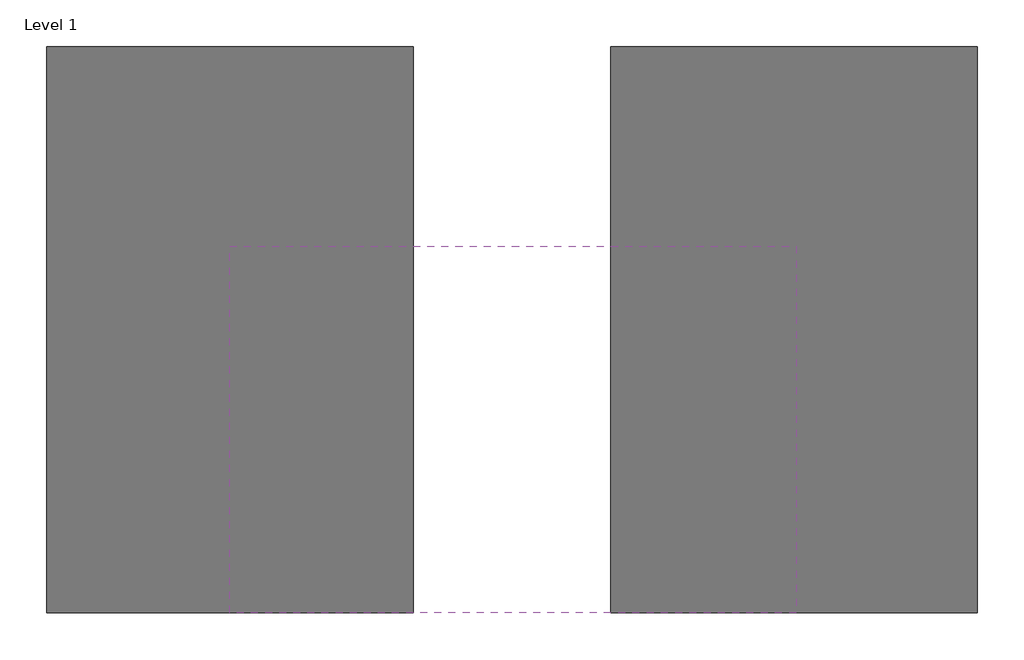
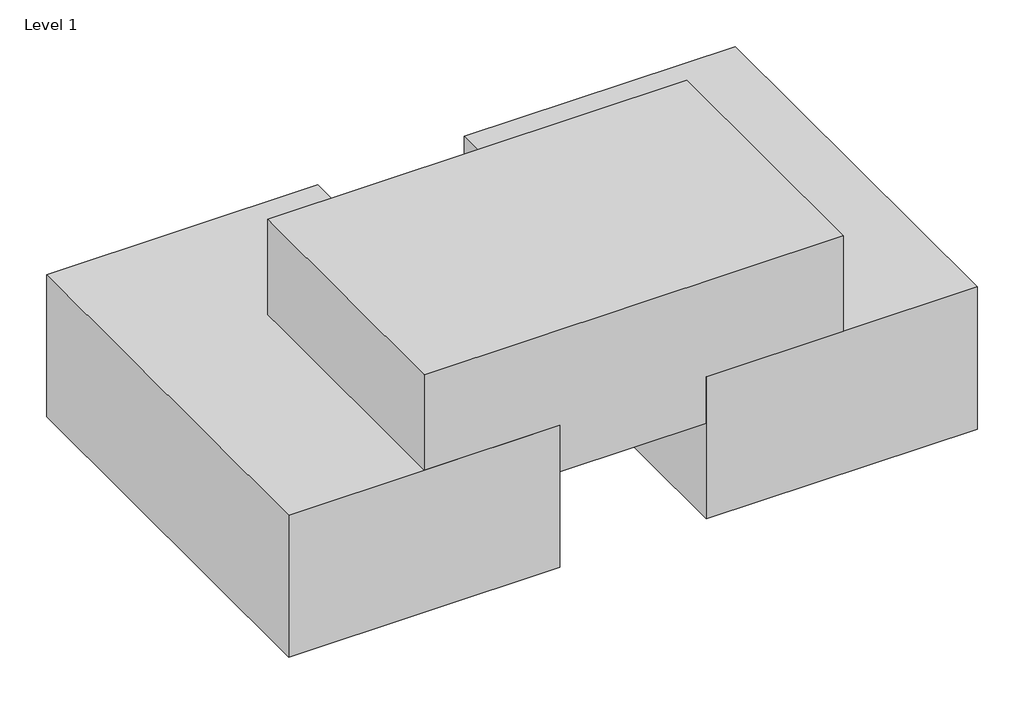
# One storey: 3 proxies.
"""IFC4 building model written with IfcOpenShell, lengths in millimetres."""

from ifc_helpers import new_model, si_unit, frame, origin, place, context, project, spatial, polyline, outline, extrude, faceted_brep, element, save

model = new_model("IFC4")

# Units and contexts
model_context = context("Model", 3, world=origin())
ifc_project = project(units=[si_unit("LENGTHUNIT", "METRE", prefix="MILLI")], contexts=[model_context])

# Site, building, storey
site = spatial("IfcSite", under=ifc_project)
building = spatial("IfcBuilding", under=site)
storey = spatial("IfcBuildingStorey", under=building, Name="Level 1", Elevation=0.0)

# Proxies
placement = place(None, origin())
element("IfcBuildingElementProxy", 1, Name="BaseBlock_m : BaseBlock_m", ObjectType="BaseBlock_m : BaseBlock_m", at=placement, inside=storey, context=model_context, shape_type="Brep", body=[
    faceted_brep([(-30961.1803176, 15389.8945169, 0.0), (-30961.1803176, -1610.1054831, 0.0), (-30961.1803176, -1610.1054831, 4096.0), (-30961.1803176, 9389.8945169, 4096.0), (-30961.1803176, 9389.8945169, 6096.0), (-30961.1803176, 15389.8945169, 6096.0), (-19961.1803176, -1610.1054831, 0.0), (-19961.1803176, -1610.1054831, 6096.0), (-25399.9332897, -1610.1054831, 6096.0), (-30961.1803176, -1610.1054831, 6096.0), (-19961.1803176, 15389.8945169, 0.0), (-19961.1803176, 15389.8945169, 6096.0), (-25399.9332897, 9389.8945169, 6096.0)], [[[0, 1, 2, 3, 4, 5]], [[1, 6, 7, 8, 9, 2]], [[6, 10, 11, 7]], [[10, 0, 5, 11]], [[7, 11, 5, 4, 12, 8]], [[0, 10, 6, 1]], [[4, 3, 2, 9]], [[8, 12, 4, 9]]]),
])
element("IfcBuildingElementProxy", 2, Name="BaseBlock_m : BaseBlock_m", ObjectType="BaseBlock_m : BaseBlock_m", at=placement, inside=storey, context=model_context, shape_type="Brep", body=[
    faceted_brep([(-47899.9332897, 15389.8945169, 0.0), (-47899.9332897, -1610.1054831, 0.0), (-47899.9332897, -1610.1054831, 6096.0), (-47899.9332897, 15389.8945169, 6096.0), (-36899.9332897, -1610.1054831, 0.0), (-36899.9332897, -1610.1054831, 4096.0), (-36899.9332897, -1610.1054831, 6096.0), (-42399.9332897, -1610.1054831, 6096.0), (-36899.9332897, 15389.8945169, 0.0), (-36899.9332897, 15389.8945169, 6096.0), (-36899.9332897, 9389.8945169, 6096.0), (-36899.9332897, 9389.8945169, 4096.0), (-42399.9332897, 9389.8945169, 6096.0)], [[[0, 1, 2, 3]], [[2, 1, 4, 5, 6, 7]], [[4, 8, 9, 10, 11, 5]], [[8, 0, 3, 9]], [[3, 2, 7, 12, 10, 9]], [[0, 8, 4, 1]], [[10, 6, 5, 11]], [[6, 10, 12, 7]]]),
])
element("IfcBuildingElementProxy", 3, Name="BaseBlock_m : BaseBlock_m", ObjectType="BaseBlock_m : BaseBlock_m", at=placement, inside=storey, context=model_context, shape_type="SweptSolid", body=[
    extrude(outline(polyline([(10192.0, -25399.9332897), (10192.0, -42399.9332897), (6096.0, -42399.9332897), (6096.0, -36899.9332897), (4096.0, -36899.9332897), (4096.0, -30961.1803176), (6096.0, -30961.1803176), (6096.0, -25399.9332897), (10192.0, -25399.9332897)])), frame((0.0, -1610.1054831, 0.0), z_axis=(0.0, 1.0, 0.0), x_axis=(0.0, 0.0, 1.0)), (0.0, 0.0, 1.0), 11000.0),
])

save(model, "model.ifc")
